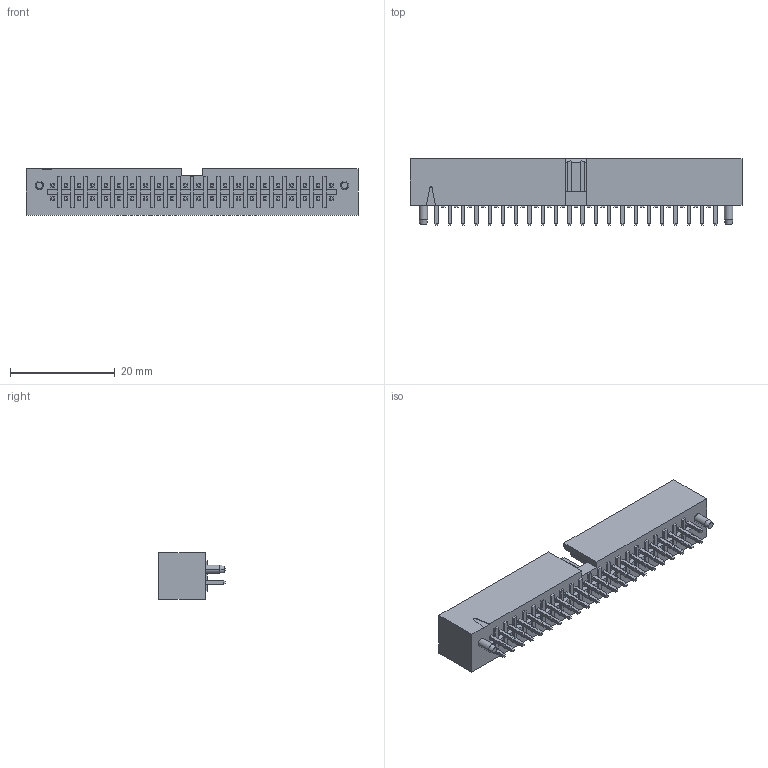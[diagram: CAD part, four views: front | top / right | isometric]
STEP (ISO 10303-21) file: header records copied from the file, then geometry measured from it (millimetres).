
FILE_DESCRIPTION((''),'2;1');
FILE_NAME('878344411','2010-09-15T',('gga'),(''),'PRO/ENGINEER BY PARAMETRIC TECHNOLOGY CORPORATION, 2003451','PRO/ENGINEER BY PARAMETRIC TECHNOLOGY CORPORATION, 2003451','');
FILE_SCHEMA(('CONFIG_CONTROL_DESIGN'));
Length unit declared in the file: millimetre
Products named in the file (1): 878344411
Bounding box: 63.5 x 12.7 x 8.89 mm (x, y, z)
Volume: 2665.2 mm3; surface area: 4554.1 mm2
Topology: 1 solids, 1 shells, 966 faces, 2389 edges, 1476 vertices
Faces by surface type: plane 949, cylinder 9, cone 8
Entity records: 27516 total; most frequent: CARTESIAN_POINT 4736, ORIENTED_EDGE 4590, DIRECTION 4441, EDGE_CURVE 2295, VECTOR 2271, LINE 2271, VERTEX_POINT 1380, AXIS2_PLACEMENT_3D 1085
